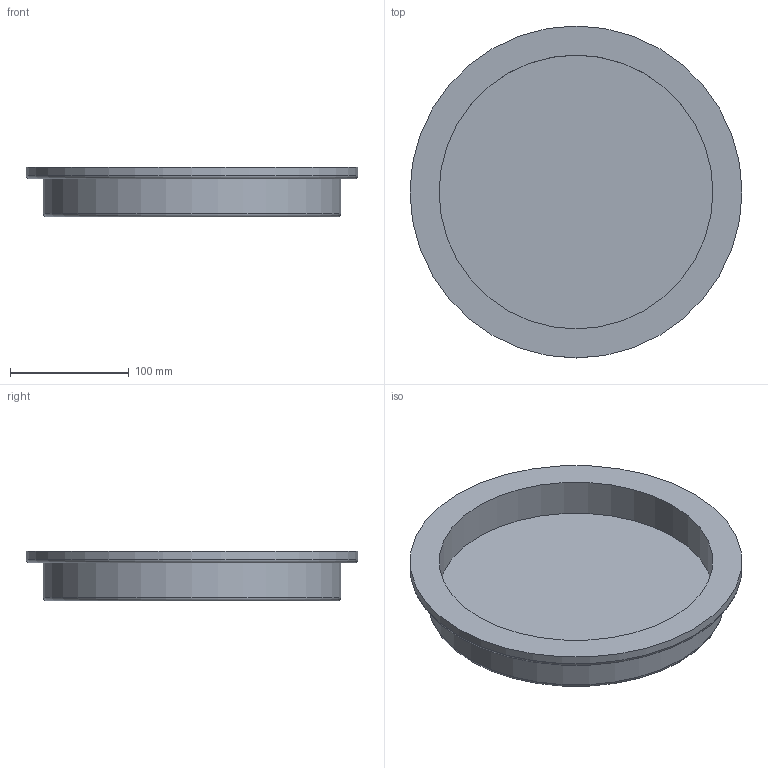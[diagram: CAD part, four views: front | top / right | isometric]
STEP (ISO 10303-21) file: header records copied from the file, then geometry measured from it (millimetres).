
FILE_DESCRIPTION((''),'2;1');
FILE_NAME('U:\Wolfgang\Marcel-3D\fertig\Kapitel 4\2501140.stp','2011-04-21T08:25:56',('TK1'),(''),'Autodesk Inventor 2010','Autodesk Inventor 2010','');
FILE_SCHEMA(('AUTOMOTIVE_DESIGN { 1 0 10303 214 1 1 1 1 }'));
Length unit declared in the file: millimetre
Products named in the file (1): 2501140
Bounding box: 280 x 280 x 42 mm (x, y, z)
Volume: 854826.1 mm3; surface area: 178246.8 mm2
Topology: 1 solids, 1 shells, 9 faces, 13 edges, 8 vertices
Faces by surface type: plane 4, cylinder 3, torus 2
Full cylindrical faces by diameter (mm): 231 x1, 251 x1, 280 x1
Entity records: 200 total; most frequent: DIRECTION 36, CARTESIAN_POINT 26, AXIS2_PLACEMENT_3D 18, ORIENTED_EDGE 16, EDGE_LOOP 16, FACE_OUTER_BOUND 9, ADVANCED_FACE 9, VERTEX_POINT 8
